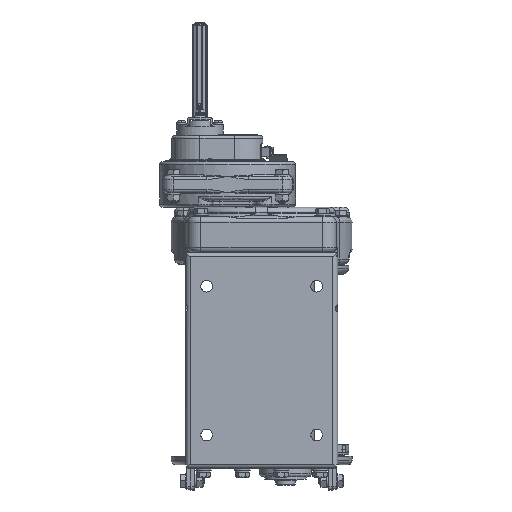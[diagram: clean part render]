
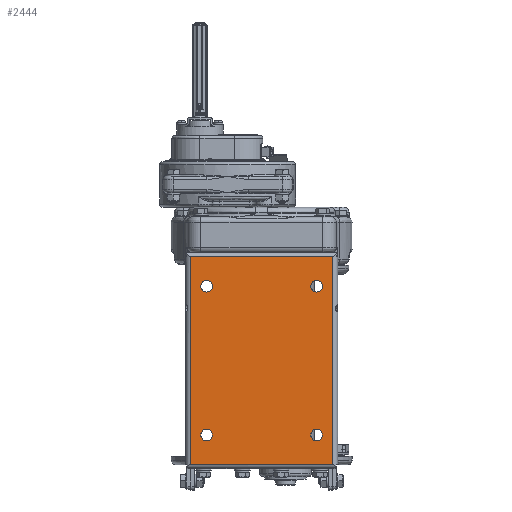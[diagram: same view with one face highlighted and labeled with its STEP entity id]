
A CAD part, front view. The second image highlights one B-rep face of the part: STEP entity #2444.
In plain terms, the highlighted planar face has unit normal (0, -1, 0).
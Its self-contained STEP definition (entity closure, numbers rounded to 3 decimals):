
#2444=ADVANCED_FACE('',(#26943,#26944,#26945,#26946,#26947),#26942,.F.);
#26942=PLANE('',#54864);
#26943=FACE_OUTER_BOUND('',#54865,.T.);
#26944=FACE_BOUND('',#54866,.T.);
#26945=FACE_BOUND('',#54867,.T.);
#26946=FACE_BOUND('',#54868,.T.);
#26947=FACE_BOUND('',#54869,.T.);
#54861=CARTESIAN_POINT('',(-171.432,-278.182,-566.035));
#54862=DIRECTION('',(0.,1.,0.));
#54863=DIRECTION('',(1.,0.,0.));
#54864=AXIS2_PLACEMENT_3D('',#54861,#54862,#54863);
#54865=EDGE_LOOP('',(#75046,#75047,#75048,#75049));
#54866=EDGE_LOOP('',(#75050,#75051,#75052));
#54867=EDGE_LOOP('',(#75053,#75054,#75055));
#54868=EDGE_LOOP('',(#75056,#75057,#75058));
#54869=EDGE_LOOP('',(#75059,#75060,#75061));
#75046=ORIENTED_EDGE('',*,*,#81781,.T.);
#75047=ORIENTED_EDGE('',*,*,#86714,.T.);
#75048=ORIENTED_EDGE('',*,*,#81768,.F.);
#75049=ORIENTED_EDGE('',*,*,#86715,.F.);
#75050=ORIENTED_EDGE('',*,*,#86716,.T.);
#75051=ORIENTED_EDGE('',*,*,#86717,.T.);
#75052=ORIENTED_EDGE('',*,*,#86718,.T.);
#75053=ORIENTED_EDGE('',*,*,#86719,.T.);
#75054=ORIENTED_EDGE('',*,*,#86720,.T.);
#75055=ORIENTED_EDGE('',*,*,#86721,.T.);
#75056=ORIENTED_EDGE('',*,*,#86722,.T.);
#75057=ORIENTED_EDGE('',*,*,#86723,.T.);
#75058=ORIENTED_EDGE('',*,*,#86724,.T.);
#75059=ORIENTED_EDGE('',*,*,#86725,.T.);
#75060=ORIENTED_EDGE('',*,*,#86726,.T.);
#75061=ORIENTED_EDGE('',*,*,#86727,.T.);
#81768=EDGE_CURVE('',#101327,#101334,#101335,.T.);
#81781=EDGE_CURVE('',#101425,#101418,#101426,.T.);
#86714=EDGE_CURVE('',#101418,#101334,#134253,.T.);
#86715=EDGE_CURVE('',#101425,#101327,#134259,.T.);
#86716=EDGE_CURVE('',#134265,#134266,#134267,.T.);
#86717=EDGE_CURVE('',#134266,#134273,#134274,.T.);
#86718=EDGE_CURVE('',#134273,#134265,#134280,.T.);
#86719=EDGE_CURVE('',#134286,#134287,#134288,.T.);
#86720=EDGE_CURVE('',#134287,#134294,#134295,.T.);
#86721=EDGE_CURVE('',#134294,#134286,#134301,.T.);
#86722=EDGE_CURVE('',#134307,#134308,#134309,.T.);
#86723=EDGE_CURVE('',#134308,#134315,#134316,.T.);
#86724=EDGE_CURVE('',#134315,#134307,#134322,.T.);
#86725=EDGE_CURVE('',#134328,#134329,#134330,.T.);
#86726=EDGE_CURVE('',#134329,#134336,#134337,.T.);
#86727=EDGE_CURVE('',#134336,#134328,#134343,.T.);
#101327=VERTEX_POINT('',#153307);
#101334=VERTEX_POINT('',#153312);
#101335=LINE('',#153313,#153314);
#101418=VERTEX_POINT('',#153409);
#101425=VERTEX_POINT('',#153414);
#101426=LINE('',#153415,#153416);
#134253=LINE('',#176472,#176473);
#134259=LINE('',#176475,#176476);
#134265=VERTEX_POINT('',#176478);
#134266=VERTEX_POINT('',#176479);
#134267=CIRCLE('',#176483,9.);
#134273=VERTEX_POINT('',#176484);
#134274=CIRCLE('',#176488,9.);
#134280=CIRCLE('',#176492,9.);
#134286=VERTEX_POINT('',#176493);
#134287=VERTEX_POINT('',#176494);
#134288=CIRCLE('',#176498,9.);
#134294=VERTEX_POINT('',#176499);
#134295=CIRCLE('',#176503,9.);
#134301=CIRCLE('',#176507,9.);
#134307=VERTEX_POINT('',#176508);
#134308=VERTEX_POINT('',#176509);
#134309=CIRCLE('',#176513,9.);
#134315=VERTEX_POINT('',#176514);
#134316=CIRCLE('',#176518,9.);
#134322=CIRCLE('',#176522,9.);
#134328=VERTEX_POINT('',#176523);
#134329=VERTEX_POINT('',#176524);
#134330=CIRCLE('',#176528,9.);
#134336=VERTEX_POINT('',#176529);
#134337=CIRCLE('',#176533,9.);
#134343=CIRCLE('',#176537,9.);
#153307=CARTESIAN_POINT('',(-161.432,-278.182,-898.035));
#153312=CARTESIAN_POINT('',(-161.432,-278.182,-576.035));
#153313=CARTESIAN_POINT('',(-161.432,-278.182,-898.035));
#153314=VECTOR('',#153315,322.);
#153315=DIRECTION('',(0.,0.,1.));
#153409=CARTESIAN_POINT('',(57.568,-278.182,-576.035));
#153414=CARTESIAN_POINT('',(57.568,-278.182,-898.035));
#153415=CARTESIAN_POINT('',(57.568,-278.182,-898.035));
#153416=VECTOR('',#153417,322.);
#153417=DIRECTION('',(0.,0.,1.));
#176472=CARTESIAN_POINT('',(57.568,-278.182,-576.035));
#176473=VECTOR('',#176474,219.);
#176474=DIRECTION('',(-1.,0.,0.));
#176475=CARTESIAN_POINT('',(57.568,-278.182,-898.035));
#176476=VECTOR('',#176477,219.);
#176477=DIRECTION('',(-1.,0.,0.));
#176478=CARTESIAN_POINT('',(42.068,-278.182,-852.035));
#176479=CARTESIAN_POINT('',(33.068,-278.182,-861.035));
#176480=CARTESIAN_POINT('',(33.068,-278.182,-852.035));
#176481=DIRECTION('',(0.,1.,0.));
#176482=DIRECTION('',(1.,0.,0.));
#176483=AXIS2_PLACEMENT_3D('',#176480,#176481,#176482);
#176484=CARTESIAN_POINT('',(33.067,-278.182,-843.035));
#176485=CARTESIAN_POINT('',(33.068,-278.182,-852.035));
#176486=DIRECTION('',(0.,1.,0.));
#176487=DIRECTION('',(1.,0.,0.));
#176488=AXIS2_PLACEMENT_3D('',#176485,#176486,#176487);
#176489=CARTESIAN_POINT('',(33.068,-278.182,-852.035));
#176490=DIRECTION('',(0.,1.,0.));
#176491=DIRECTION('',(1.,0.,0.));
#176492=AXIS2_PLACEMENT_3D('',#176489,#176490,#176491);
#176493=CARTESIAN_POINT('',(-127.932,-278.182,-852.035));
#176494=CARTESIAN_POINT('',(-136.932,-278.182,-861.035));
#176495=CARTESIAN_POINT('',(-136.932,-278.182,-852.035));
#176496=DIRECTION('',(0.,1.,0.));
#176497=DIRECTION('',(1.,0.,0.));
#176498=AXIS2_PLACEMENT_3D('',#176495,#176496,#176497);
#176499=CARTESIAN_POINT('',(-136.933,-278.182,-843.035));
#176500=CARTESIAN_POINT('',(-136.932,-278.182,-852.035));
#176501=DIRECTION('',(0.,1.,0.));
#176502=DIRECTION('',(1.,0.,0.));
#176503=AXIS2_PLACEMENT_3D('',#176500,#176501,#176502);
#176504=CARTESIAN_POINT('',(-136.932,-278.182,-852.035));
#176505=DIRECTION('',(0.,1.,0.));
#176506=DIRECTION('',(1.,0.,0.));
#176507=AXIS2_PLACEMENT_3D('',#176504,#176505,#176506);
#176508=CARTESIAN_POINT('',(-127.932,-278.182,-622.035));
#176509=CARTESIAN_POINT('',(-136.932,-278.182,-631.035));
#176510=CARTESIAN_POINT('',(-136.932,-278.182,-622.035));
#176511=DIRECTION('',(0.,1.,0.));
#176512=DIRECTION('',(1.,0.,0.));
#176513=AXIS2_PLACEMENT_3D('',#176510,#176511,#176512);
#176514=CARTESIAN_POINT('',(-136.933,-278.182,-613.035));
#176515=CARTESIAN_POINT('',(-136.932,-278.182,-622.035));
#176516=DIRECTION('',(0.,1.,0.));
#176517=DIRECTION('',(1.,0.,0.));
#176518=AXIS2_PLACEMENT_3D('',#176515,#176516,#176517);
#176519=CARTESIAN_POINT('',(-136.932,-278.182,-622.035));
#176520=DIRECTION('',(0.,1.,0.));
#176521=DIRECTION('',(1.,0.,0.));
#176522=AXIS2_PLACEMENT_3D('',#176519,#176520,#176521);
#176523=CARTESIAN_POINT('',(42.068,-278.182,-622.035));
#176524=CARTESIAN_POINT('',(33.068,-278.182,-631.035));
#176525=CARTESIAN_POINT('',(33.068,-278.182,-622.035));
#176526=DIRECTION('',(0.,1.,0.));
#176527=DIRECTION('',(1.,0.,0.));
#176528=AXIS2_PLACEMENT_3D('',#176525,#176526,#176527);
#176529=CARTESIAN_POINT('',(33.067,-278.182,-613.035));
#176530=CARTESIAN_POINT('',(33.068,-278.182,-622.035));
#176531=DIRECTION('',(0.,1.,0.));
#176532=DIRECTION('',(1.,0.,0.));
#176533=AXIS2_PLACEMENT_3D('',#176530,#176531,#176532);
#176534=CARTESIAN_POINT('',(33.068,-278.182,-622.035));
#176535=DIRECTION('',(0.,1.,0.));
#176536=DIRECTION('',(1.,0.,0.));
#176537=AXIS2_PLACEMENT_3D('',#176534,#176535,#176536);
